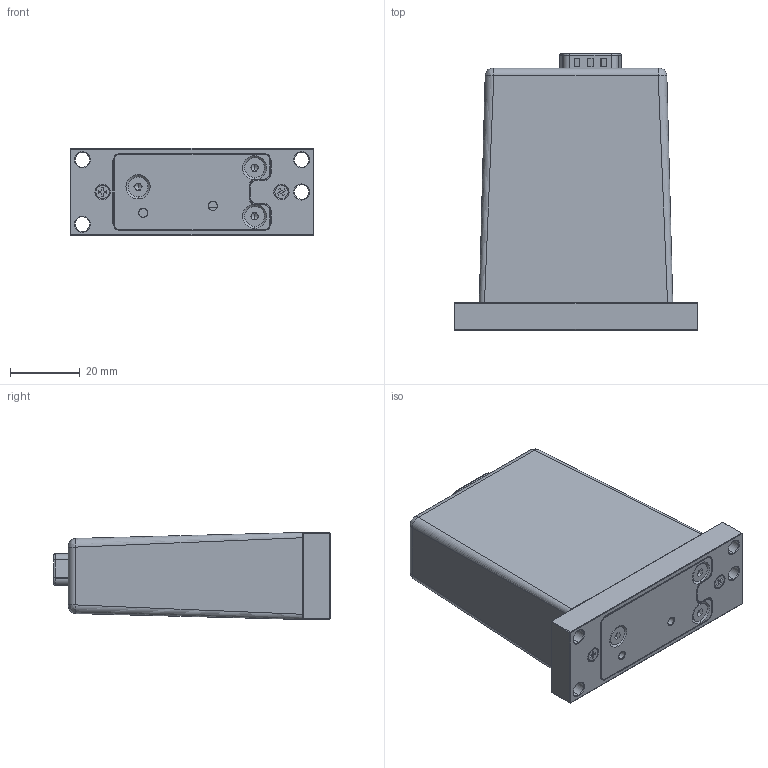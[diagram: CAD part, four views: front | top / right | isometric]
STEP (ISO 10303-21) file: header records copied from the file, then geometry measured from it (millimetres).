
FILE_DESCRIPTION (( 'STEP AP203' ), '1' );
FILE_NAME ('101903-01_ SFC5300 Lang.step', '2015-04-16T07:40:29', ( 'IT' ), ( '' ), 'SwSTEP 2.0', 'SolidWorks 2013', '' );
FILE_SCHEMA (( 'CONFIG_CONTROL_DESIGN' ));
Length unit declared in the file: millimetre
Products named in the file (2): 102484_00; 101903-01_ SFC5300 Lang
Assembly tree (1 placements, depth 2):
  101903-01_ SFC5300 Lang
    102484_00
Bounding box: 70 x 79.55 x 25 mm (x, y, z)
Volume: 26241 mm3; surface area: 31872.2 mm2
Topology: 8 solids, 17 shells, 1302 faces, 3419 edges, 2143 vertices
Faces by surface type: plane 602, cylinder 327, bspline 209, cone 144, torus 16, sphere 4
Entity records: 46697 total; most frequent: CARTESIAN_POINT 15610, ORIENTED_EDGE 6766, DIRECTION 5891, EDGE_CURVE 3383, VERTEX_POINT 2143, LINE 2095, VECTOR 2095, AXIS2_PLACEMENT_3D 1898
